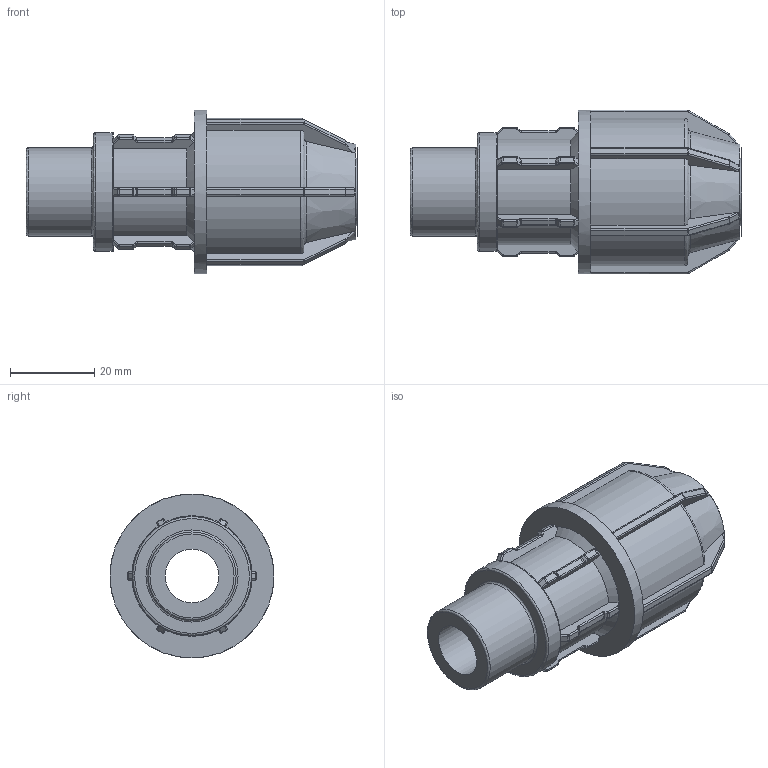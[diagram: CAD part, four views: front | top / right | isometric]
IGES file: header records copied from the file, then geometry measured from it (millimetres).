
Global section: file name: 140200016005.ipt; native system: Autodesk Inventor 2015; preprocessor: unknown; author: KIM; date: 20180409.130925; units: millimetre
Bounding box: 79 x 39 x 39 mm (x, y, z)
Volume: 37797.5 mm3; surface area: 14120.9 mm2
Topology: 1 solids, 1 shells, 468 faces, 1169 edges, 698 vertices
Faces by surface type: cylinder 171, plane 159, revolution 131, cone 7
Full cylindrical faces by diameter (mm): 20.955 x1, 28.289 x1, 39 x1
